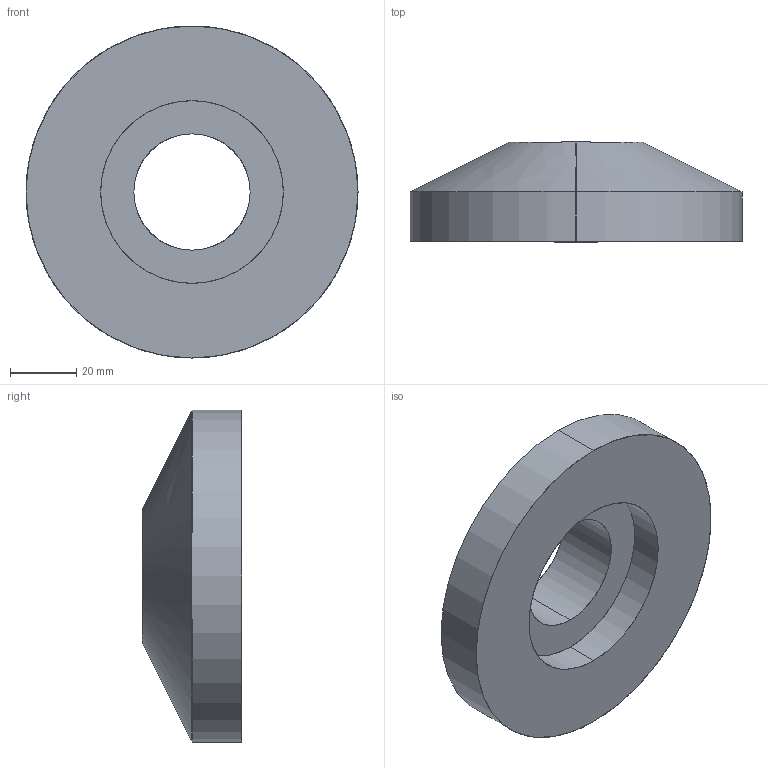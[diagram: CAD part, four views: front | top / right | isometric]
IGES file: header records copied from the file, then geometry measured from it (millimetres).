
Start section: SolidWorks IGES file using analytic representation for surfaces
Global section: file name: C:\Users\sebas\Documents\SOLIDWORKSComposer\TESIS\1. Almacenamiento\IGS\Goma de sopote.IGS; native system: SolidWorks 2022; preprocessor: SolidWorks 2022; author: sebas; date: 220619.065103; units: millimetre
Bounding box: 100 x 30 x 100 mm (x, y, z)
Surface area: 23201.8 mm2 (no closed solid volume)
Topology: 0 solids, 0 shells, 11 faces, 416 edges, 416 vertices
Faces by surface type: revolution 8, bspline 3
